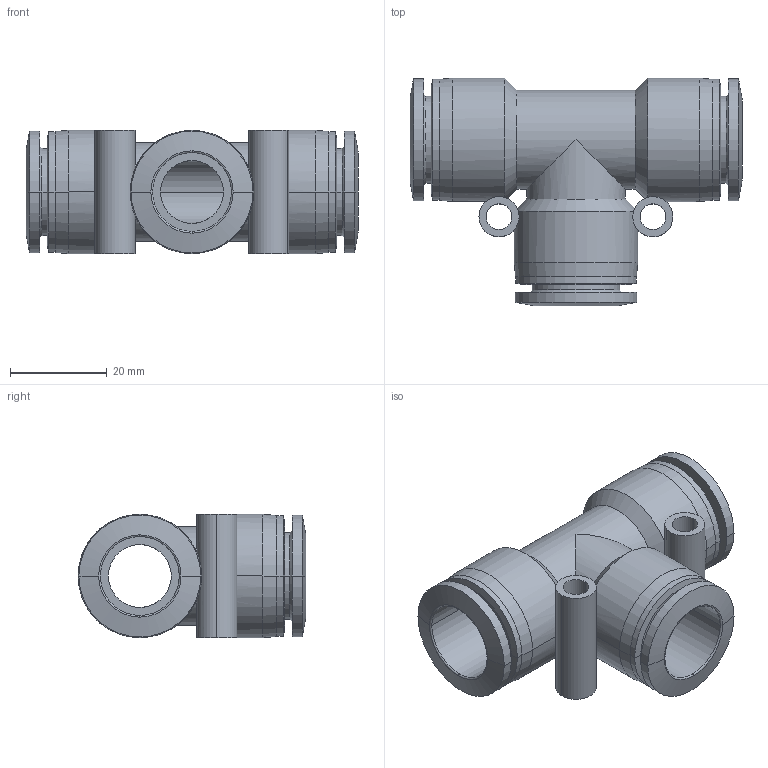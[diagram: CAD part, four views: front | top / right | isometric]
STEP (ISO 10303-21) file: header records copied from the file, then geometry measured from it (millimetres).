
FILE_DESCRIPTION (( 'STEP AP203' ), '1' );
FILE_NAME ('FT16-00.STEP', '2020-05-06T15:27:14', ( '' ), ( '' ), 'SwSTEP 2.0', 'SolidWorks 2019', '' );
FILE_SCHEMA (( 'CONFIG_CONTROL_DESIGN' ));
Length unit declared in the file: millimetre
Products named in the file (1): FT16-00
Bounding box: 68.6 x 47.05 x 25.5 mm (x, y, z)
Volume: 23456.1 mm3; surface area: 15813.3 mm2
Topology: 1 solids, 1 shells, 96 faces, 232 edges, 141 vertices
Faces by surface type: cylinder 47, cone 30, plane 13, torus 6
Entity records: 3354 total; most frequent: CARTESIAN_POINT 991, DIRECTION 520, ORIENTED_EDGE 460, EDGE_CURVE 230, AXIS2_PLACEMENT_3D 220, VERTEX_POINT 140, CIRCLE 124, EDGE_LOOP 110
